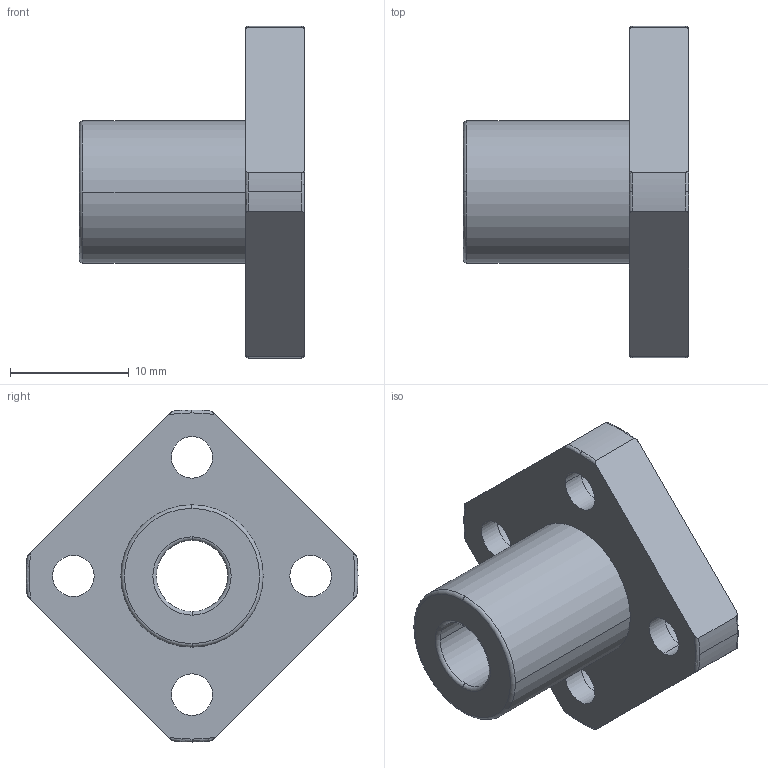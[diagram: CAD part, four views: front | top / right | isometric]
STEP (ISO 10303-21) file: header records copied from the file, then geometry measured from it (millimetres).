
FILE_DESCRIPTION(('FreeCAD Model'),'2;1');
FILE_NAME('Open CASCADE Shape Model','2021-05-03T13:14:06',('Author'),( ''),'Open CASCADE STEP processor 7.5','FreeCAD','Unknown');
FILE_SCHEMA(('AUTOMOTIVE_DESIGN { 1 0 10303 214 1 1 1 1 }'));
Length unit declared in the file: millimetre
Products named in the file (1): linear_lmk6uu
Bounding box: 19 x 28 x 28 mm (x, y, z)
Volume: 2990.2 mm3; surface area: 2417.5 mm2
Topology: 1 solids, 1 shells, 55 faces, 147 edges, 99 vertices
Faces by surface type: cylinder 26, torus 18, plane 11
Entity records: 4837 total; most frequent: CARTESIAN_POINT 1912, DIRECTION 560, ORIENTED_EDGE 294, PCURVE 294, DEFINITIONAL_REPRESENTATION 294, LINE 245, VECTOR 245, AXIS2_PLACEMENT_3D 149
